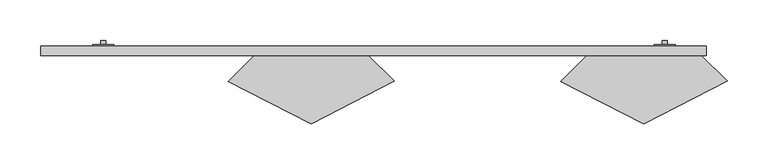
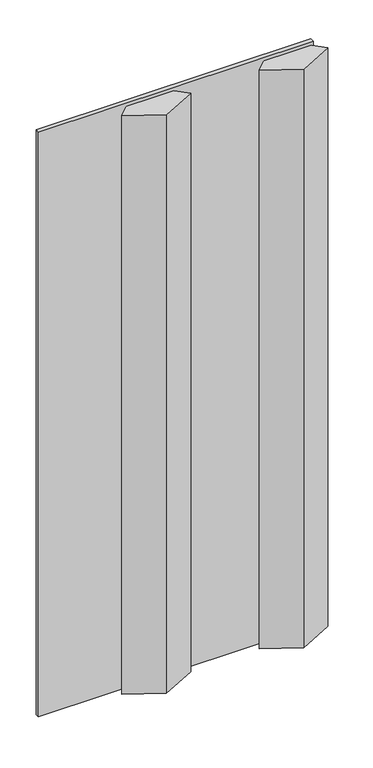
"""IFC4 building model written with IfcOpenShell, lengths in millimetres: proxy geometry, Arktura-SoundForm-Peak-RFA : Arktura-SoundForm-Peak-RFA."""

from ifc_helpers import new_model, si_unit, point, frame, frame_2d, origin, origin_with_axes, place, context, project, spatial, polyline, circle_curve, trimmed, segment, composite_curve, outline, extrude, source, transform, mapped, element, save


def generic_models_4a7c6d2e(model_context):
    return source(origin(), model_context, "Body", "SweptSolid", [
        extrude(outline(polyline([(558.8, -31.75), (533.4, -31.75), (533.4, -30.3215536), (558.8, -30.3215536), (558.8, -31.75)])), frame((0.0, 0.0, 1206.5), z_axis=(0.0, 0.0, 1.0), x_axis=(1.0, 0.0, 0.0)), (0.0, 0.0, 1.0), 25.4),
        extrude(outline(composite_curve([segment(trimmed(circle_curve(frame_2d((1219.2, 546.1)), 3.175), [point((1219.2, 542.925))], [point((1219.2, 549.275))], False, "CARTESIAN"), True, "CONTINUOUS"), segment(trimmed(circle_curve(frame_2d((1219.2, 546.1)), 3.175), [point((1219.2, 549.275))], [point((1219.2, 542.925))], False, "CARTESIAN"), True, "CONTINUOUS")], self_intersect=False)), frame((0.0, -30.3215536, 0.0), z_axis=(0.0, 1.0, 0.0), x_axis=(0.0, 0.0, 1.0)), (0.0, 0.0, 1.0), 4.9215536),
        extrude(outline(polyline([(-127.0, -31.75), (-152.4, -31.75), (-152.4, -30.3215536), (-127.0, -30.3215536), (-127.0, -31.75)])), frame((0.0, 0.0, 1206.5), z_axis=(0.0, 0.0, 1.0), x_axis=(1.0, 0.0, 0.0)), (0.0, 0.0, 1.0), 25.4),
        extrude(outline(composite_curve([segment(trimmed(circle_curve(frame_2d((1219.2, -139.7)), 3.175), [point((1219.2, -142.875))], [point((1219.2, -136.525))], False, "CARTESIAN"), True, "CONTINUOUS"), segment(trimmed(circle_curve(frame_2d((1219.2, -139.7)), 3.175), [point((1219.2, -136.525))], [point((1219.2, -142.875))], False, "CARTESIAN"), True, "CONTINUOUS")], self_intersect=False)), frame((0.0, -30.3215536, 0.0), z_axis=(0.0, 1.0, 0.0), x_axis=(0.0, 0.0, 1.0)), (0.0, 0.0, 1.0), 4.9215536),
        extrude(outline(polyline([(558.8, -31.75), (533.4, -31.75), (533.4, -30.3215536), (558.8, -30.3215536), (558.8, -31.75)])), frame((0.0, 0.0, 1743.075), z_axis=(0.0, 0.0, 1.0), x_axis=(1.0, 0.0, 0.0)), (0.0, 0.0, 1.0), 25.4),
        extrude(outline(composite_curve([segment(trimmed(circle_curve(frame_2d((1755.775, 546.1)), 3.175), [point((1755.775, 542.925))], [point((1755.775, 549.275))], False, "CARTESIAN"), True, "CONTINUOUS"), segment(trimmed(circle_curve(frame_2d((1755.775, 546.1)), 3.175), [point((1755.775, 549.275))], [point((1755.775, 542.925))], False, "CARTESIAN"), True, "CONTINUOUS")], self_intersect=False)), frame((0.0, -30.3215536, 0.0), z_axis=(0.0, 1.0, 0.0), x_axis=(0.0, 0.0, 1.0)), (0.0, 0.0, 1.0), 4.9215536),
        extrude(outline(polyline([(-127.0, -31.75), (-152.4, -31.75), (-152.4, -30.3215536), (-127.0, -30.3215536), (-127.0, -31.75)])), frame((0.0, 0.0, 1743.075), z_axis=(0.0, 0.0, 1.0), x_axis=(1.0, 0.0, 0.0)), (0.0, 0.0, 1.0), 25.4),
        extrude(outline(composite_curve([segment(trimmed(circle_curve(frame_2d((1755.775, -139.7)), 3.175), [point((1755.775, -142.875))], [point((1755.775, -136.525))], False, "CARTESIAN"), True, "CONTINUOUS"), segment(trimmed(circle_curve(frame_2d((1755.775, -139.7)), 3.175), [point((1755.775, -136.525))], [point((1755.775, -142.875))], False, "CARTESIAN"), True, "CONTINUOUS")], self_intersect=False)), frame((0.0, -30.3215536, 0.0), z_axis=(0.0, 1.0, 0.0), x_axis=(0.0, 0.0, 1.0)), (0.0, 0.0, 1.0), 4.9215536),
        extrude(outline(polyline([(558.8, -31.75), (533.4, -31.75), (533.4, -30.3215536), (558.8, -30.3215536), (558.8, -31.75)])), frame((0.0, 0.0, 60.325), z_axis=(0.0, 0.0, 1.0), x_axis=(1.0, 0.0, 0.0)), (0.0, 0.0, 1.0), 25.4),
        extrude(outline(composite_curve([segment(trimmed(circle_curve(frame_2d((73.025, 546.1)), 3.175), [point((73.025, 542.925))], [point((73.025, 549.275))], False, "CARTESIAN"), True, "CONTINUOUS"), segment(trimmed(circle_curve(frame_2d((73.025, 546.1)), 3.175), [point((73.025, 549.275))], [point((73.025, 542.925))], False, "CARTESIAN"), True, "CONTINUOUS")], self_intersect=False)), frame((0.0, -30.3215536, 0.0), z_axis=(0.0, 1.0, 0.0), x_axis=(0.0, 0.0, 1.0)), (0.0, 0.0, 1.0), 4.9215536),
        extrude(outline(polyline([(-127.0, -31.75), (-152.4, -31.75), (-152.4, -30.3215536), (-127.0, -30.3215536), (-127.0, -31.75)])), frame((0.0, 0.0, 60.325), z_axis=(0.0, 0.0, 1.0), x_axis=(1.0, 0.0, 0.0)), (0.0, 0.0, 1.0), 25.4),
        extrude(outline(composite_curve([segment(trimmed(circle_curve(frame_2d((73.025, -139.7)), 3.175), [point((73.025, -142.875))], [point((73.025, -136.525))], False, "CARTESIAN"), True, "CONTINUOUS"), segment(trimmed(circle_curve(frame_2d((73.025, -139.7)), 3.175), [point((73.025, -136.525))], [point((73.025, -142.875))], False, "CARTESIAN"), True, "CONTINUOUS")], self_intersect=False)), frame((0.0, -30.3215536, 0.0), z_axis=(0.0, 1.0, 0.0), x_axis=(0.0, 0.0, 1.0)), (0.0, 0.0, 1.0), 4.9215536),
        extrude(outline(polyline([(-215.9, -43.749976), (-215.9, -31.75), (596.9, -31.75), (596.9, -43.749976), (-215.9, -43.749976)])), origin_with_axes(), (0.0, 0.0, 1.0), 1828.8),
        extrude(outline(polyline([(501.65, -43.7499999), (590.5500179, -43.7499999), (622.3, -74.9283805), (520.7, -127.0), (419.1, -75.499982), (450.8499821, -43.7499999), (501.65, -43.7499999)])), frame((0.0, 0.0, 9.525), z_axis=(0.0, 0.0, 1.0), x_axis=(1.0, 0.0, 0.0)), (0.0, 0.0, 1.0), 1809.75),
        extrude(outline(polyline([(95.25, -43.7499999), (184.1500179, -43.7499999), (215.9, -74.9283805), (114.3, -127.0), (12.7, -75.499982), (44.4499821, -43.7499999), (95.25, -43.7499999)])), frame((0.0, 0.0, 9.525), z_axis=(0.0, 0.0, 1.0), x_axis=(1.0, 0.0, 0.0)), (0.0, 0.0, 1.0), 1809.75),
    ])


if __name__ == "__main__":
    model = new_model("IFC4")
    model_context = context("Model", 3, world=origin())
    ifc_project = project(units=[si_unit("LENGTHUNIT", "METRE", prefix="MILLI")], contexts=[model_context])
    site = spatial("IfcSite", under=ifc_project)
    building = spatial("IfcBuilding", under=site)
    placement = place(None, origin())
    generic_models_shape = generic_models_4a7c6d2e(model_context)
    element("IfcBuildingElementProxy", 1, Name="Arktura-SoundForm-Peak-RFA : Arktura-SoundForm-Peak-RFA", ObjectType="Arktura-SoundForm-Peak-RFA : Arktura-SoundForm-Peak-RFA", at=placement, inside=building, context=model_context, shape_type="MappedRepresentation", body=[
        mapped(generic_models_shape, transform((0.0, 0.0, 0.0), x_axis=(1.0, 0.0, 0.0), y_axis=(0.0, 1.0, 0.0), z_axis=(0.0, 0.0, 1.0))),
    ])
    save(model, "model.ifc")
